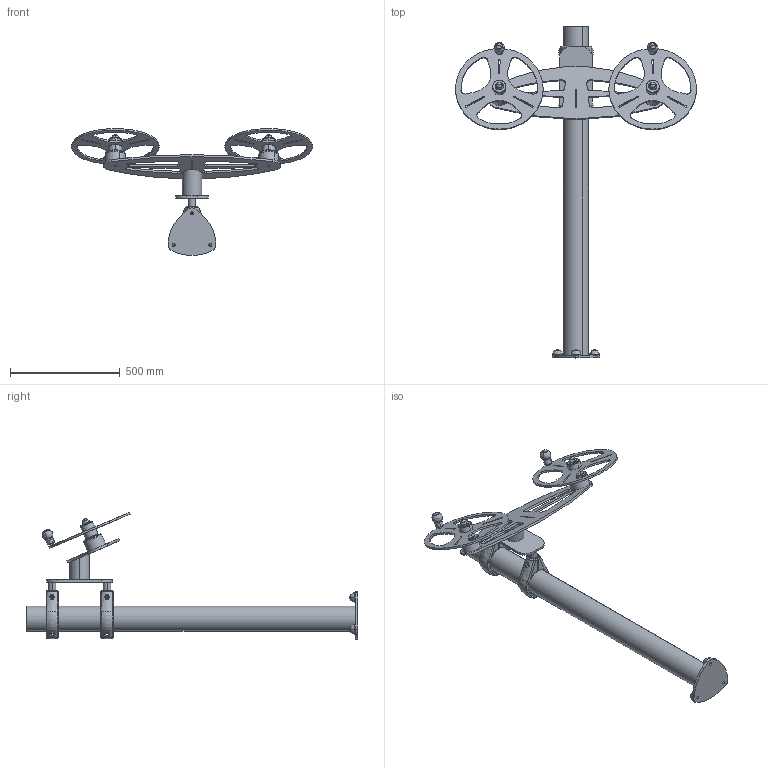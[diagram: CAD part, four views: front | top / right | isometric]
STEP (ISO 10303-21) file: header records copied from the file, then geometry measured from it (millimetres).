
FILE_DESCRIPTION (( 'STEP AP214' ), '1' );
FILE_NAME ('PMS0811 - VOLANT.STEP', '2025-03-20T12:18:12', ( '' ), ( '' ), 'SwSTEP 2.0', 'SolidWorks 2024', '' );
FILE_SCHEMA (( 'AUTOMOTIVE_DESIGN' ));
Length unit declared in the file: millimetre
Products named in the file (1): PMS0811 - VOLANT
Bounding box: 1100 x 1515 x 579.43 mm (x, y, z)
Surface area: 1610719.3 mm2 (no closed solid volume)
Topology: 0 solids, 51 shells, 680 faces, 2239 edges, 1539 vertices
Faces by surface type: cylinder 252, bspline 170, plane 149, torus 69, cone 22, sphere 18
Entity records: 34912 total; most frequent: CARTESIAN_POINT 17101, ORIENTED_EDGE 3572, DIRECTION 3513, EDGE_CURVE 2227, VERTEX_POINT 1533, AXIS2_PLACEMENT_3D 1433, CIRCLE 922, EDGE_LOOP 767
